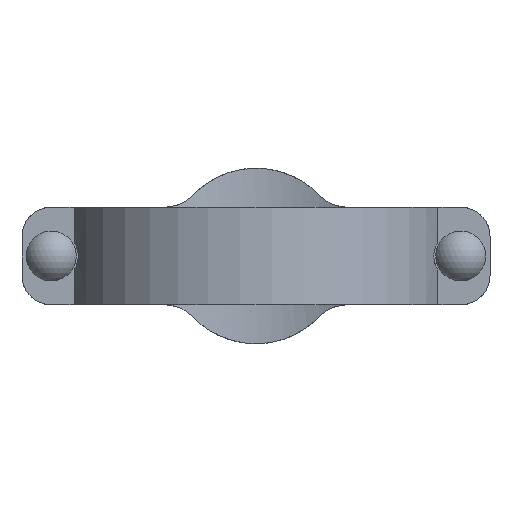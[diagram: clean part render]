
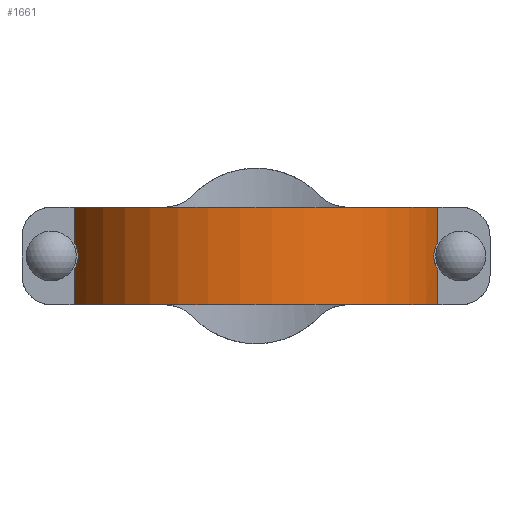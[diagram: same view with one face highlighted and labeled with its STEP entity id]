
A CAD part, front view. The second image highlights one B-rep face of the part: STEP entity #1661.
In plain terms, the highlighted cylindrical face has radius 123.952 mm (diameter 247.904 mm), a partial arc.
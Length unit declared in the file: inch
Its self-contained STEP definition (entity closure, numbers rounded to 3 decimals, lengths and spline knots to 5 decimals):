
#62=B_SPLINE_CURVE_WITH_KNOTS('',3,(#2458,#2459,#2460,#2461,#2462,#2463,
#2464,#2465,#2466,#2467,#2468,#2469,#2470,#2471,#2472,#2473,#2474,#2475),
 .UNSPECIFIED.,.F.,.F.,(4,2,2,2,2,2,2,2,4),(1.03011,1.24288,
1.65717,1.96166,2.26615,2.57064,2.87513,
3.28942,3.50219),.UNSPECIFIED.);
#74=B_SPLINE_CURVE_WITH_KNOTS('',3,(#2955,#2956,#2957,#2958,#2959,#2960,
#2961,#2962,#2963,#2964,#2965,#2966,#2967,#2968,#2969,#2970,#2971,#2972),
 .UNSPECIFIED.,.F.,.F.,(4,2,2,2,2,2,2,2,4),(1.03011,1.24288,
1.65717,1.96166,2.26615,2.57064,2.87513,
3.28942,3.50219),.UNSPECIFIED.);
#104=CYLINDRICAL_SURFACE('',#1823,4.88);
#189=FACE_OUTER_BOUND('',#279,.T.);
#279=EDGE_LOOP('',(#1310,#1311,#1312,#1313,#1314,#1315,#1316,#1317));
#339=LINE('',#2501,#466);
#343=LINE('',#2512,#470);
#387=LINE('',#2976,#514);
#391=LINE('',#2987,#518);
#466=VECTOR('',#1983,0.3937);
#470=VECTOR('',#1991,0.3937);
#514=VECTOR('',#2147,0.3937);
#518=VECTOR('',#2155,0.3937);
#615=CIRCLE('',#1822,4.88);
#616=CIRCLE('',#1824,4.88);
#665=VERTEX_POINT('',#2456);
#666=VERTEX_POINT('',#2457);
#669=VERTEX_POINT('',#2500);
#674=VERTEX_POINT('',#2510);
#736=VERTEX_POINT('',#2953);
#737=VERTEX_POINT('',#2954);
#738=VERTEX_POINT('',#2975);
#743=VERTEX_POINT('',#2985);
#831=EDGE_CURVE('',#665,#666,#62,.T.);
#835=EDGE_CURVE('',#665,#669,#339,.T.);
#841=EDGE_CURVE('',#674,#666,#343,.T.);
#925=EDGE_CURVE('',#736,#737,#74,.T.);
#927=EDGE_CURVE('',#736,#738,#387,.T.);
#933=EDGE_CURVE('',#743,#737,#391,.T.);
#963=EDGE_CURVE('',#669,#743,#615,.T.);
#967=EDGE_CURVE('',#738,#674,#616,.T.);
#1310=ORIENTED_EDGE('',*,*,#831,.T.);
#1311=ORIENTED_EDGE('',*,*,#841,.F.);
#1312=ORIENTED_EDGE('',*,*,#967,.F.);
#1313=ORIENTED_EDGE('',*,*,#927,.F.);
#1314=ORIENTED_EDGE('',*,*,#925,.T.);
#1315=ORIENTED_EDGE('',*,*,#933,.F.);
#1316=ORIENTED_EDGE('',*,*,#963,.F.);
#1317=ORIENTED_EDGE('',*,*,#835,.F.);
#1661=ADVANCED_FACE('',(#189),#104,.T.);
#1822=AXIS2_PLACEMENT_3D('',#3042,#2215,#2216);
#1823=AXIS2_PLACEMENT_3D('',#3047,#2220,#2221);
#1824=AXIS2_PLACEMENT_3D('',#3048,#2222,#2223);
#1983=DIRECTION('',(0.,0.,1.));
#1991=DIRECTION('',(0.,0.,1.));
#2147=DIRECTION('',(0.,0.,-1.));
#2155=DIRECTION('',(0.,0.,-1.));
#2215=DIRECTION('center_axis',(0.,0.,1.));
#2216=DIRECTION('ref_axis',(-0.955,-0.295,0.));
#2220=DIRECTION('center_axis',(0.,0.,1.));
#2221=DIRECTION('ref_axis',(-0.955,-0.295,0.));
#2222=DIRECTION('center_axis',(0.,0.,-1.));
#2223=DIRECTION('ref_axis',(-0.955,-0.295,0.));
#2456=CARTESIAN_POINT('',(-4.66208,-1.442,0.36119));
#2457=CARTESIAN_POINT('',(-4.66208,-1.442,-0.36119));
#2458=CARTESIAN_POINT('Ctrl Pts',(-4.66208,-1.442,0.36119));
#2459=CARTESIAN_POINT('Ctrl Pts',(-4.65421,-1.46747,0.34836));
#2460=CARTESIAN_POINT('Ctrl Pts',(-4.64633,-1.49218,0.33461));
#2461=CARTESIAN_POINT('Ctrl Pts',(-4.62351,-1.56203,0.29097));
#2462=CARTESIAN_POINT('Ctrl Pts',(-4.60888,-1.60441,0.25828));
#2463=CARTESIAN_POINT('Ctrl Pts',(-4.58646,-1.66722,0.19157));
#2464=CARTESIAN_POINT('Ctrl Pts',(-4.57705,-1.69274,0.15721));
#2465=CARTESIAN_POINT('Ctrl Pts',(-4.56375,-1.72828,0.08148));
#2466=CARTESIAN_POINT('Ctrl Pts',(-4.56,-1.73804,0.03996));
#2467=CARTESIAN_POINT('Ctrl Pts',(-4.56,-1.73804,-0.03996));
#2468=CARTESIAN_POINT('Ctrl Pts',(-4.56375,-1.72828,-0.08148));
#2469=CARTESIAN_POINT('Ctrl Pts',(-4.57705,-1.69274,-0.15721));
#2470=CARTESIAN_POINT('Ctrl Pts',(-4.58646,-1.66722,-0.19157));
#2471=CARTESIAN_POINT('Ctrl Pts',(-4.60888,-1.60441,-0.25828));
#2472=CARTESIAN_POINT('Ctrl Pts',(-4.62351,-1.56203,-0.29097));
#2473=CARTESIAN_POINT('Ctrl Pts',(-4.64633,-1.49218,-0.33461));
#2474=CARTESIAN_POINT('Ctrl Pts',(-4.65421,-1.46747,-0.34836));
#2475=CARTESIAN_POINT('Ctrl Pts',(-4.66208,-1.442,-0.36119));
#2500=CARTESIAN_POINT('',(-4.66208,-1.442,1.25));
#2501=CARTESIAN_POINT('',(-4.66208,-1.442,0.));
#2510=CARTESIAN_POINT('',(-4.66208,-1.442,-1.25));
#2512=CARTESIAN_POINT('',(-4.66208,-1.442,0.));
#2953=CARTESIAN_POINT('',(4.66208,-1.442,-0.36119));
#2954=CARTESIAN_POINT('',(4.66208,-1.442,0.36119));
#2955=CARTESIAN_POINT('Ctrl Pts',(4.66208,-1.442,-0.36119));
#2956=CARTESIAN_POINT('Ctrl Pts',(4.65421,-1.46747,-0.34836));
#2957=CARTESIAN_POINT('Ctrl Pts',(4.64633,-1.49218,-0.33461));
#2958=CARTESIAN_POINT('Ctrl Pts',(4.62351,-1.56203,-0.29097));
#2959=CARTESIAN_POINT('Ctrl Pts',(4.60888,-1.60441,-0.25828));
#2960=CARTESIAN_POINT('Ctrl Pts',(4.58646,-1.66722,-0.19157));
#2961=CARTESIAN_POINT('Ctrl Pts',(4.57705,-1.69274,-0.15721));
#2962=CARTESIAN_POINT('Ctrl Pts',(4.56375,-1.72828,-0.08148));
#2963=CARTESIAN_POINT('Ctrl Pts',(4.56,-1.73804,-0.03996));
#2964=CARTESIAN_POINT('Ctrl Pts',(4.56,-1.73804,0.03996));
#2965=CARTESIAN_POINT('Ctrl Pts',(4.56375,-1.72828,0.08148));
#2966=CARTESIAN_POINT('Ctrl Pts',(4.57705,-1.69274,0.15721));
#2967=CARTESIAN_POINT('Ctrl Pts',(4.58646,-1.66722,0.19157));
#2968=CARTESIAN_POINT('Ctrl Pts',(4.60888,-1.60441,0.25828));
#2969=CARTESIAN_POINT('Ctrl Pts',(4.62351,-1.56203,0.29097));
#2970=CARTESIAN_POINT('Ctrl Pts',(4.64633,-1.49218,0.33461));
#2971=CARTESIAN_POINT('Ctrl Pts',(4.65421,-1.46747,0.34836));
#2972=CARTESIAN_POINT('Ctrl Pts',(4.66208,-1.442,0.36119));
#2975=CARTESIAN_POINT('',(4.66208,-1.442,-1.25));
#2976=CARTESIAN_POINT('',(4.66208,-1.442,0.));
#2985=CARTESIAN_POINT('',(4.66208,-1.442,1.25));
#2987=CARTESIAN_POINT('',(4.66208,-1.442,0.));
#3042=CARTESIAN_POINT('Origin',(0.,0.,1.25));
#3047=CARTESIAN_POINT('Origin',(0.,0.,0.));
#3048=CARTESIAN_POINT('Origin',(0.,0.,-1.25));
